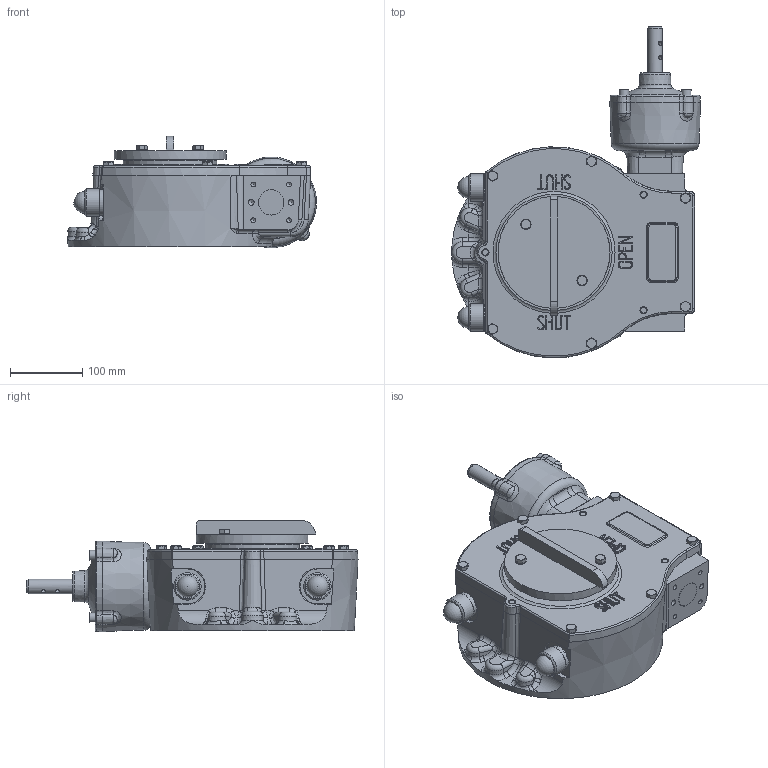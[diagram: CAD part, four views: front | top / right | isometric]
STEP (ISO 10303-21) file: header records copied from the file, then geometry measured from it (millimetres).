
FILE_DESCRIPTION( ( 'Unknown' ), '1' );
FILE_NAME( 'M:/Current Drawings/Internet datasheets/4 - STEP/AB3000N-PR4 LH.stp', 'Unknown', ( 'Unknown' ), ( 'Unknown' ), 'PSStep 15.0.49', 'Unknown', ' ' );
FILE_SCHEMA( ( 'AUTOMOTIVE_DESIGN { 1 0 10303 214 1 1 1 1 }' ) );
Length unit declared in the file: millimetre
Products named in the file (1): AB3000A20
Bounding box: 344.53 x 459.66 x 154.19 mm (x, y, z)
Volume: 6107164.7 mm3; surface area: 728141.1 mm2
Topology: 1 solids, 43 shells, 2284 faces, 5836 edges, 3590 vertices
Faces by surface type: cylinder 619, plane 615, cone 424, bspline 298, torus 226, sphere 86, extrusion 16
Full cylindrical faces by diameter (mm): 6 x2, 6.647 x40, 8 x16, 8.5 x10, 9 x6, 10 x6, 13.27 x4, 14 x6, 19 x1, 20 x7, 23 x1, 25 x3, 26 x1, 28 x2, 29 x1, 35 x3, 36 x2, 38 x2, 102 x1, 104.555 x1, 110 x3, 110.25 x1, 125.95 x2, 130 x6, 155 x1
Entity records: 128895 total; most frequent: CARTESIAN_POINT 59950, ORIENTED_EDGE 10682, DIRECTION 10215, EDGE_CURVE 5341, AXIS2_PLACEMENT_3D 4311, VERTEX_POINT 3470, EDGE_LOOP 2634, FACE_OUTER_BOUND 2452
